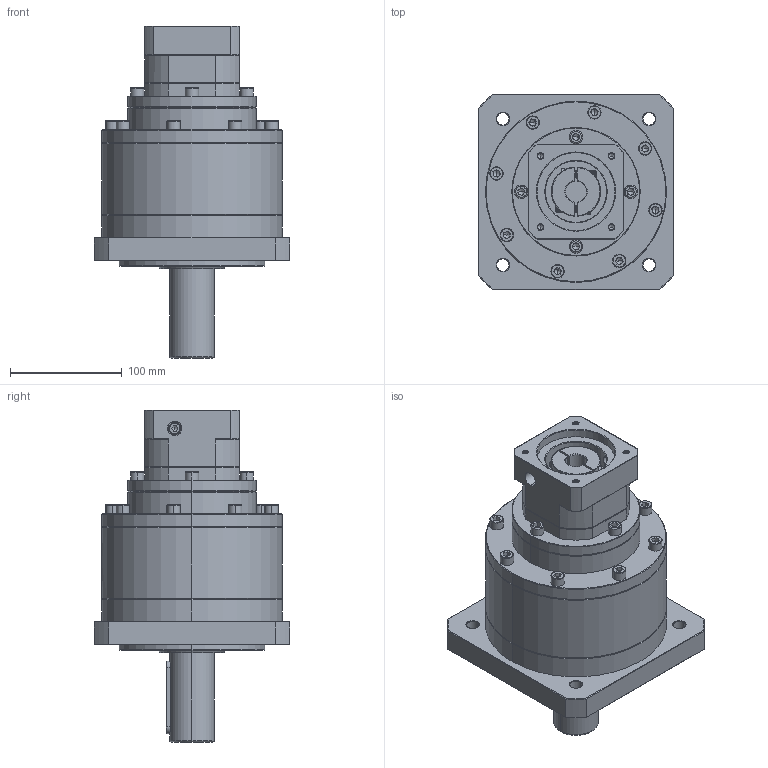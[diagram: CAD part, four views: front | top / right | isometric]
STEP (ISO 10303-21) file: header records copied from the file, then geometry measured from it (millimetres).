
FILE_DESCRIPTION (( 'STEP AP214' ), '1' );
FILE_NAME ('ZF160A-D40-L3-P2-19-70-90-M6.step', '2023-09-03T08:15:54', ( '' ), ( '' ), 'SwSTEP 2.0', 'SolidWorks 2016', '' );
FILE_SCHEMA (( 'AUTOMOTIVE_DESIGN' ));
Length unit declared in the file: millimetre
Products named in the file (1): ZF160A-D40-L3-P2-19-70-90-M6
Bounding box: 175 x 175 x 297.2 mm (x, y, z)
Volume: 3406574.4 mm3; surface area: 225950.6 mm2
Topology: 5 solids, 5 shells, 2388 faces, 6345 edges, 4075 vertices
Faces by surface type: plane 1139, cylinder 461, bspline 412, cone 330, torus 46
Entity records: 129231 total; most frequent: CARTESIAN_POINT 48888, ORIENTED_EDGE 12582, DIRECTION 9462, EDGE_CURVE 6291, VERTEX_POINT 4075, VECTOR 3362, LINE 3362, AXIS2_PLACEMENT_3D 3050
